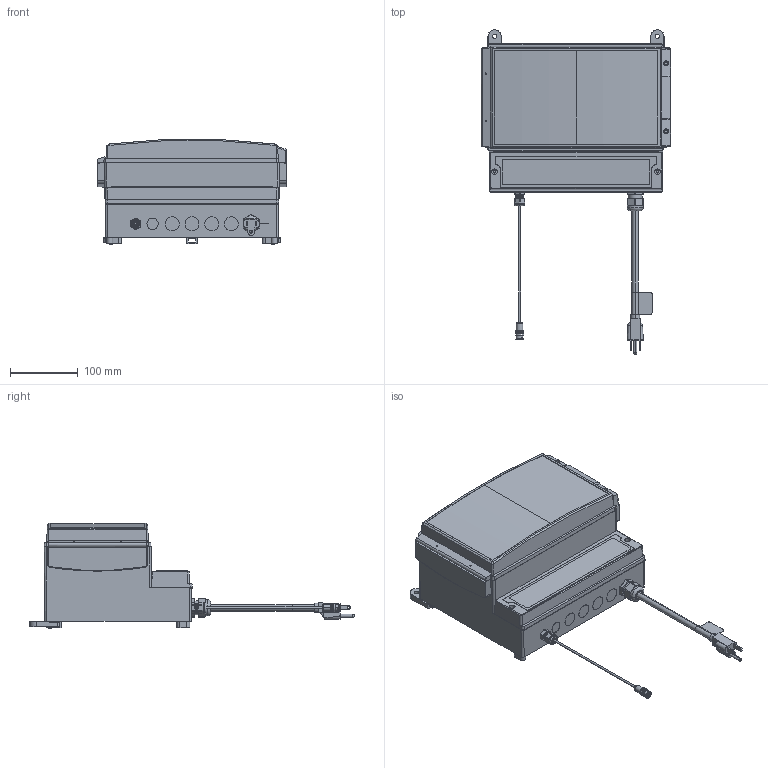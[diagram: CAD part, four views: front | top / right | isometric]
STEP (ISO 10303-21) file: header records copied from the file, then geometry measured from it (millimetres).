
FILE_DESCRIPTION (( 'STEP AP214' ), '1' );
FILE_NAME ('ORP-11,23.STEP', '2018-07-25T14:58:40', ( '' ), ( '' ), 'SwSTEP 2.0', 'SolidWorks 2017', '' );
FILE_SCHEMA (( 'AUTOMOTIVE_DESIGN' ));
Length unit declared in the file: inch
Products named in the file (1): ORP-11,23
Bounding box: 279.59 x 477.98 x 154.6 mm (x, y, z)
Surface area: 305106.1 mm2 (no closed solid volume)
Topology: 0 solids, 20 shells, 505 faces, 1966 edges, 1419 vertices
Faces by surface type: plane 247, cylinder 182, cone 30, bspline 21, torus 21, sphere 4
Entity records: 30128 total; most frequent: CARTESIAN_POINT 7401, DIRECTION 3294, ORIENTED_EDGE 3150, EDGE_CURVE 1966, VERTEX_POINT 1419, LINE 1156, VECTOR 1156, AXIS2_PLACEMENT_3D 1069
